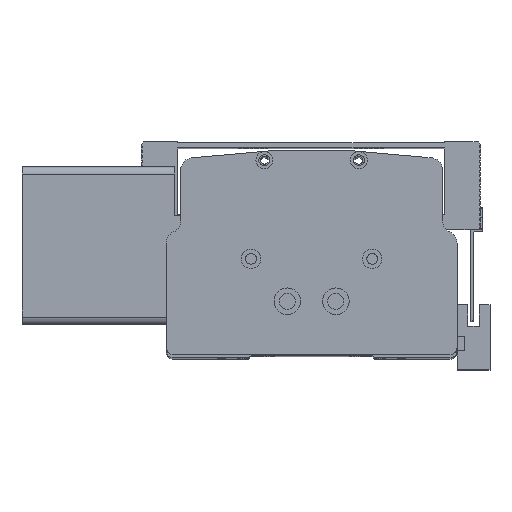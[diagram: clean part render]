
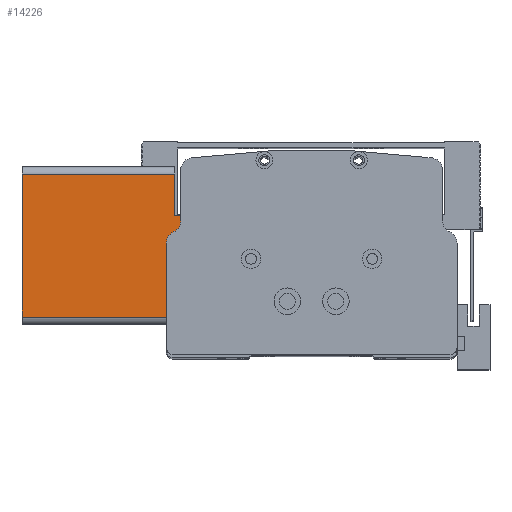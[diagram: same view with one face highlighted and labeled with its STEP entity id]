
A CAD part, top view. The second image highlights one B-rep face of the part: STEP entity #14226.
In plain terms, the highlighted planar face has unit normal (0, 0, 1) as drawn and (-1, 0, 0) by its records, which use the part's own axes.
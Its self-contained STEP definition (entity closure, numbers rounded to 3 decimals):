
#2257 = VECTOR ( 'NONE', #56949, 1000. ) ;
#3531 = CARTESIAN_POINT ( 'NONE',  ( 0., 62., 87. ) ) ;
#3828 = VERTEX_POINT ( 'NONE', #9489 ) ;
#5704 = EDGE_CURVE ( 'NONE', #91520, #10482, #60992, .T. ) ;
#7178 = DIRECTION ( 'NONE',  ( 0., -1., 0. ) ) ;
#8982 = ORIENTED_EDGE ( 'NONE', *, *, #109901, .T. ) ;
#9489 = CARTESIAN_POINT ( 'NONE',  ( 0., 45., 63. ) ) ;
#10482 = VERTEX_POINT ( 'NONE', #52094 ) ;
#12475 = DIRECTION ( 'NONE',  ( 0., 0., 1. ) ) ;
#14226 = ADVANCED_FACE ( 'NONE', ( #103748 ), #69690, .F. ) ;
#17779 = DIRECTION ( 'NONE',  ( 0., 0., -1. ) ) ;
#18800 = LINE ( 'NONE', #28682, #129578 ) ;
#23500 = LINE ( 'NONE', #48682, #130982 ) ;
#24834 = VECTOR ( 'NONE', #118458, 1000. ) ;
#25993 = CARTESIAN_POINT ( 'NONE',  ( 0., 62., 87. ) ) ;
#27315 = ORIENTED_EDGE ( 'NONE', *, *, #82785, .T. ) ;
#28682 = CARTESIAN_POINT ( 'NONE',  ( 0., 0., 0. ) ) ;
#28907 = EDGE_CURVE ( 'NONE', #114894, #105848, #107918, .T. ) ;
#30655 = ORIENTED_EDGE ( 'NONE', *, *, #109269, .F. ) ;
#32508 = ORIENTED_EDGE ( 'NONE', *, *, #99398, .T. ) ;
#38038 = VERTEX_POINT ( 'NONE', #65402 ) ;
#38990 = LINE ( 'NONE', #25993, #91132 ) ;
#42241 = VERTEX_POINT ( 'NONE', #116668 ) ;
#48682 = CARTESIAN_POINT ( 'NONE',  ( 0., 80.26, 63. ) ) ;
#52094 = CARTESIAN_POINT ( 'NONE',  ( 0., 62., 73. ) ) ;
#54605 = VERTEX_POINT ( 'NONE', #115769 ) ;
#56949 = DIRECTION ( 'NONE',  ( 0., 1., 0. ) ) ;
#60206 = ORIENTED_EDGE ( 'NONE', *, *, #85171, .T. ) ;
#60992 = LINE ( 'NONE', #98371, #2257 ) ;
#63209 = LINE ( 'NONE', #67662, #87596 ) ;
#65402 = CARTESIAN_POINT ( 'NONE',  ( 0., 62., 0. ) ) ;
#67662 = CARTESIAN_POINT ( 'NONE',  ( 0., 3., 87. ) ) ;
#69690 = PLANE ( 'NONE',  #135117 ) ;
#70082 = VECTOR ( 'NONE', #128362, 1000. ) ;
#74269 = ORIENTED_EDGE ( 'NONE', *, *, #77002, .F. ) ;
#76624 = CARTESIAN_POINT ( 'NONE',  ( 0., 0., 87. ) ) ;
#77002 = EDGE_CURVE ( 'NONE', #54605, #3828, #23500, .T. ) ;
#78150 = VECTOR ( 'NONE', #12475, 1000. ) ;
#80165 = DIRECTION ( 'NONE',  ( 1., 0., 0. ) ) ;
#80595 = DIRECTION ( 'NONE',  ( 0., -1., 0. ) ) ;
#82785 = EDGE_CURVE ( 'NONE', #38038, #42241, #18800, .T. ) ;
#83783 = CARTESIAN_POINT ( 'NONE',  ( 0., 45., 73. ) ) ;
#85171 = EDGE_CURVE ( 'NONE', #54605, #38038, #97732, .T. ) ;
#85303 = CARTESIAN_POINT ( 'NONE',  ( 0., 45., 63. ) ) ;
#87596 = VECTOR ( 'NONE', #88582, 1000. ) ;
#88582 = DIRECTION ( 'NONE',  ( 0., 0., 1. ) ) ;
#91132 = VECTOR ( 'NONE', #119737, 1000. ) ;
#91275 = CARTESIAN_POINT ( 'NONE',  ( 0., 3., 87. ) ) ;
#91520 = VERTEX_POINT ( 'NONE', #83783 ) ;
#92216 = CARTESIAN_POINT ( 'NONE',  ( 0., 62., 87. ) ) ;
#92765 = EDGE_LOOP ( 'NONE', ( #30655, #74269, #60206, #27315, #32508, #132284, #8982, #111272 ) ) ;
#97732 = LINE ( 'NONE', #3531, #70082 ) ;
#98371 = CARTESIAN_POINT ( 'NONE',  ( 0., 80.26, 73. ) ) ;
#99398 = EDGE_CURVE ( 'NONE', #42241, #105848, #63209, .T. ) ;
#103748 = FACE_OUTER_BOUND ( 'NONE', #92765, .T. ) ;
#105848 = VERTEX_POINT ( 'NONE', #91275 ) ;
#107918 = LINE ( 'NONE', #76624, #24834 ) ;
#109269 = EDGE_CURVE ( 'NONE', #3828, #91520, #133488, .T. ) ;
#109901 = EDGE_CURVE ( 'NONE', #114894, #10482, #38990, .T. ) ;
#111272 = ORIENTED_EDGE ( 'NONE', *, *, #5704, .F. ) ;
#114894 = VERTEX_POINT ( 'NONE', #92216 ) ;
#115769 = CARTESIAN_POINT ( 'NONE',  ( 0., 62., 63. ) ) ;
#116668 = CARTESIAN_POINT ( 'NONE',  ( 0., 3., 0. ) ) ;
#118458 = DIRECTION ( 'NONE',  ( 0., -1., 0. ) ) ;
#119737 = DIRECTION ( 'NONE',  ( 0., 0., -1. ) ) ;
#128362 = DIRECTION ( 'NONE',  ( 0., 0., -1. ) ) ;
#129578 = VECTOR ( 'NONE', #80595, 1000. ) ;
#130982 = VECTOR ( 'NONE', #7178, 1000. ) ;
#132012 = CARTESIAN_POINT ( 'NONE',  ( 0., 0., 87. ) ) ;
#132284 = ORIENTED_EDGE ( 'NONE', *, *, #28907, .F. ) ;
#133488 = LINE ( 'NONE', #85303, #78150 ) ;
#135117 = AXIS2_PLACEMENT_3D ( 'NONE', #132012, #80165, #17779 ) ;
